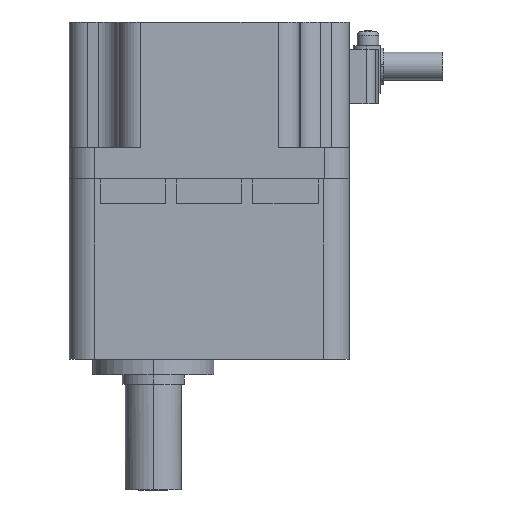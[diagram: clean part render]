
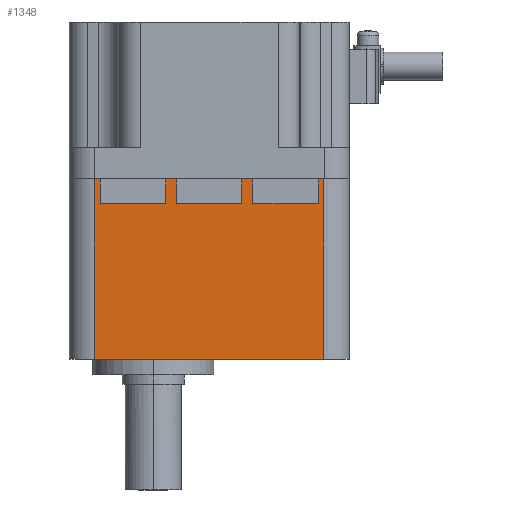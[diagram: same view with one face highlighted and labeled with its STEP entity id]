
A CAD part, left-side view. The second image highlights one B-rep face of the part: STEP entity #1348.
In plain terms, the highlighted planar face has unit normal (-1, 0, 0).
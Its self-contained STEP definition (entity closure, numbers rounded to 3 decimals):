
#5 = DIRECTION ( 'NONE',  ( 0., -1., 0. ) ) ;
#68 = VECTOR ( 'NONE', #2330, 1000. ) ;
#82 = EDGE_CURVE ( 'NONE', #4188, #3000, #2545, .T. ) ;
#115 = LINE ( 'NONE', #6035, #4887 ) ;
#153 = EDGE_CURVE ( 'NONE', #3217, #1065, #3037, .T. ) ;
#329 = ORIENTED_EDGE ( 'NONE', *, *, #153, .T. ) ;
#523 = CARTESIAN_POINT ( 'NONE',  ( -45., 14., -8. ) ) ;
#542 = VECTOR ( 'NONE', #5, 1000. ) ;
#601 = CARTESIAN_POINT ( 'NONE',  ( -45., -45., -58. ) ) ;
#609 = EDGE_LOOP ( 'NONE', ( #2481, #2381, #1871, #1061, #6016, #2771, #329, #2932, #5896, #620, #6045, #3662, #1218, #6013, #3404, #2766 ) ) ;
#620 = ORIENTED_EDGE ( 'NONE', *, *, #2662, .T. ) ;
#636 = EDGE_CURVE ( 'NONE', #906, #2443, #2459, .T. ) ;
#706 = DIRECTION ( 'NONE',  ( 0., 0., -1. ) ) ;
#719 = VECTOR ( 'NONE', #3323, 1000. ) ;
#794 = VECTOR ( 'NONE', #2563, 1000. ) ;
#807 = EDGE_CURVE ( 'NONE', #5584, #1065, #4752, .T. ) ;
#906 = VERTEX_POINT ( 'NONE', #3413 ) ;
#921 = CARTESIAN_POINT ( 'NONE',  ( -45., 35., 0. ) ) ;
#1061 = ORIENTED_EDGE ( 'NONE', *, *, #2193, .F. ) ;
#1065 = VERTEX_POINT ( 'NONE', #921 ) ;
#1103 = VERTEX_POINT ( 'NONE', #523 ) ;
#1111 = CARTESIAN_POINT ( 'NONE',  ( -45., -10.5, -8. ) ) ;
#1218 = ORIENTED_EDGE ( 'NONE', *, *, #636, .T. ) ;
#1225 = LINE ( 'NONE', #601, #542 ) ;
#1336 = CARTESIAN_POINT ( 'NONE',  ( -45., 36.8, -58. ) ) ;
#1348 = ADVANCED_FACE ( 'NONE', ( #5929 ), #1359, .T. ) ;
#1359 = PLANE ( 'NONE',  #5468 ) ;
#1364 = EDGE_CURVE ( 'NONE', #2207, #5037, #1630, .T. ) ;
#1473 = VECTOR ( 'NONE', #3175, 1000. ) ;
#1511 = VERTEX_POINT ( 'NONE', #4013 ) ;
#1528 = CARTESIAN_POINT ( 'NONE',  ( -45., 45., -58. ) ) ;
#1544 = DIRECTION ( 'NONE',  ( -1., 0., 0. ) ) ;
#1552 = DIRECTION ( 'NONE',  ( 0., -1., 0. ) ) ;
#1593 = CARTESIAN_POINT ( 'NONE',  ( -45., 35., -8. ) ) ;
#1630 = LINE ( 'NONE', #1656, #4131 ) ;
#1656 = CARTESIAN_POINT ( 'NONE',  ( -45., -45., 0. ) ) ;
#1670 = CARTESIAN_POINT ( 'NONE',  ( -45., 10.5, -8. ) ) ;
#1689 = DIRECTION ( 'NONE',  ( 0., -1., 0. ) ) ;
#1783 = CARTESIAN_POINT ( 'NONE',  ( -45., -36.8, -58. ) ) ;
#1871 = ORIENTED_EDGE ( 'NONE', *, *, #5541, .T. ) ;
#2077 = DIRECTION ( 'NONE',  ( 0., 0., -1. ) ) ;
#2088 = CARTESIAN_POINT ( 'NONE',  ( -45., -10.5, 0. ) ) ;
#2101 = EDGE_CURVE ( 'NONE', #5776, #5168, #3477, .T. ) ;
#2144 = VERTEX_POINT ( 'NONE', #3007 ) ;
#2193 = EDGE_CURVE ( 'NONE', #5191, #1511, #3995, .T. ) ;
#2207 = VERTEX_POINT ( 'NONE', #2088 ) ;
#2239 = VECTOR ( 'NONE', #2852, 1000. ) ;
#2330 = DIRECTION ( 'NONE',  ( 0., 1., 0. ) ) ;
#2335 = EDGE_CURVE ( 'NONE', #1103, #3217, #5039, .T. ) ;
#2381 = ORIENTED_EDGE ( 'NONE', *, *, #82, .T. ) ;
#2440 = VECTOR ( 'NONE', #2077, 1000. ) ;
#2443 = VERTEX_POINT ( 'NONE', #3693 ) ;
#2459 = LINE ( 'NONE', #4507, #1473 ) ;
#2481 = ORIENTED_EDGE ( 'NONE', *, *, #3803, .T. ) ;
#2545 = LINE ( 'NONE', #2558, #794 ) ;
#2558 = CARTESIAN_POINT ( 'NONE',  ( -45., 45., -8. ) ) ;
#2563 = DIRECTION ( 'NONE',  ( 0., 1., 0. ) ) ;
#2662 = EDGE_CURVE ( 'NONE', #5620, #5168, #1225, .T. ) ;
#2674 = VECTOR ( 'NONE', #4715, 1000. ) ;
#2718 = CARTESIAN_POINT ( 'NONE',  ( -45., -10.5, -58. ) ) ;
#2756 = CARTESIAN_POINT ( 'NONE',  ( -45., 14., 0. ) ) ;
#2766 = ORIENTED_EDGE ( 'NONE', *, *, #1364, .F. ) ;
#2771 = ORIENTED_EDGE ( 'NONE', *, *, #2335, .T. ) ;
#2852 = DIRECTION ( 'NONE',  ( 0., 0., -1. ) ) ;
#2859 = CARTESIAN_POINT ( 'NONE',  ( -45., -36.8, -58. ) ) ;
#2932 = ORIENTED_EDGE ( 'NONE', *, *, #807, .F. ) ;
#2961 = CARTESIAN_POINT ( 'NONE',  ( -45., -14., -8. ) ) ;
#3000 = VERTEX_POINT ( 'NONE', #1670 ) ;
#3007 = CARTESIAN_POINT ( 'NONE',  ( -45., -14., -8. ) ) ;
#3037 = LINE ( 'NONE', #3104, #5380 ) ;
#3104 = CARTESIAN_POINT ( 'NONE',  ( -45., 35., -58. ) ) ;
#3111 = DIRECTION ( 'NONE',  ( 0., 0., 1. ) ) ;
#3135 = VECTOR ( 'NONE', #3814, 1000. ) ;
#3175 = DIRECTION ( 'NONE',  ( 0., 0., -1. ) ) ;
#3217 = VERTEX_POINT ( 'NONE', #1593 ) ;
#3323 = DIRECTION ( 'NONE',  ( 0., -1., 0. ) ) ;
#3355 = LINE ( 'NONE', #2718, #2440 ) ;
#3376 = EDGE_CURVE ( 'NONE', #906, #5776, #5964, .T. ) ;
#3404 = ORIENTED_EDGE ( 'NONE', *, *, #5235, .T. ) ;
#3413 = CARTESIAN_POINT ( 'NONE',  ( -45., -35., 0. ) ) ;
#3477 = LINE ( 'NONE', #2859, #2239 ) ;
#3526 = CARTESIAN_POINT ( 'NONE',  ( -45., 36.8, -58. ) ) ;
#3587 = LINE ( 'NONE', #2961, #68 ) ;
#3621 = VECTOR ( 'NONE', #706, 1000. ) ;
#3660 = CARTESIAN_POINT ( 'NONE',  ( -45., -14., 0. ) ) ;
#3662 = ORIENTED_EDGE ( 'NONE', *, *, #3376, .F. ) ;
#3693 = CARTESIAN_POINT ( 'NONE',  ( -45., -35., -8. ) ) ;
#3803 = EDGE_CURVE ( 'NONE', #2207, #4188, #3355, .T. ) ;
#3814 = DIRECTION ( 'NONE',  ( 0., 1., 0. ) ) ;
#3857 = CARTESIAN_POINT ( 'NONE',  ( -45., -45., 0. ) ) ;
#3888 = LINE ( 'NONE', #1336, #3621 ) ;
#3995 = LINE ( 'NONE', #3857, #719 ) ;
#4013 = CARTESIAN_POINT ( 'NONE',  ( -45., 10.5, 0. ) ) ;
#4131 = VECTOR ( 'NONE', #1689, 1000. ) ;
#4188 = VERTEX_POINT ( 'NONE', #1111 ) ;
#4431 = CARTESIAN_POINT ( 'NONE',  ( -45., 45., -8. ) ) ;
#4458 = EDGE_CURVE ( 'NONE', #5191, #1103, #5912, .T. ) ;
#4507 = CARTESIAN_POINT ( 'NONE',  ( -45., -35., -58. ) ) ;
#4711 = DIRECTION ( 'NONE',  ( 0., -1., 0. ) ) ;
#4715 = DIRECTION ( 'NONE',  ( 0., 0., -1. ) ) ;
#4745 = CARTESIAN_POINT ( 'NONE',  ( -45., -45., 0. ) ) ;
#4749 = VECTOR ( 'NONE', #4711, 1000. ) ;
#4752 = LINE ( 'NONE', #4745, #4749 ) ;
#4759 = DIRECTION ( 'NONE',  ( 0., 0., 1. ) ) ;
#4770 = DIRECTION ( 'NONE',  ( 0., -1., 0. ) ) ;
#4794 = EDGE_CURVE ( 'NONE', #2443, #2144, #3587, .T. ) ;
#4887 = VECTOR ( 'NONE', #5423, 1000. ) ;
#5037 = VERTEX_POINT ( 'NONE', #3660 ) ;
#5039 = LINE ( 'NONE', #4431, #3135 ) ;
#5168 = VERTEX_POINT ( 'NONE', #1783 ) ;
#5191 = VERTEX_POINT ( 'NONE', #2756 ) ;
#5211 = EDGE_CURVE ( 'NONE', #5584, #5620, #3888, .T. ) ;
#5235 = EDGE_CURVE ( 'NONE', #2144, #5037, #115, .T. ) ;
#5307 = CARTESIAN_POINT ( 'NONE',  ( -45., 14., -58. ) ) ;
#5342 = CARTESIAN_POINT ( 'NONE',  ( -45., 10.5, -58. ) ) ;
#5356 = CARTESIAN_POINT ( 'NONE',  ( -45., -45., 0. ) ) ;
#5380 = VECTOR ( 'NONE', #3111, 1000. ) ;
#5423 = DIRECTION ( 'NONE',  ( 0., 0., 1. ) ) ;
#5468 = AXIS2_PLACEMENT_3D ( 'NONE', #1528, #1544, #1552 ) ;
#5527 = VECTOR ( 'NONE', #4759, 1000. ) ;
#5541 = EDGE_CURVE ( 'NONE', #3000, #1511, #5954, .T. ) ;
#5584 = VERTEX_POINT ( 'NONE', #5684 ) ;
#5620 = VERTEX_POINT ( 'NONE', #3526 ) ;
#5684 = CARTESIAN_POINT ( 'NONE',  ( -45., 36.8, 0. ) ) ;
#5776 = VERTEX_POINT ( 'NONE', #6061 ) ;
#5896 = ORIENTED_EDGE ( 'NONE', *, *, #5211, .T. ) ;
#5903 = VECTOR ( 'NONE', #4770, 1000. ) ;
#5912 = LINE ( 'NONE', #5307, #2674 ) ;
#5929 = FACE_OUTER_BOUND ( 'NONE', #609, .T. ) ;
#5954 = LINE ( 'NONE', #5342, #5527 ) ;
#5964 = LINE ( 'NONE', #5356, #5903 ) ;
#6013 = ORIENTED_EDGE ( 'NONE', *, *, #4794, .T. ) ;
#6016 = ORIENTED_EDGE ( 'NONE', *, *, #4458, .T. ) ;
#6035 = CARTESIAN_POINT ( 'NONE',  ( -45., -14., -58. ) ) ;
#6045 = ORIENTED_EDGE ( 'NONE', *, *, #2101, .F. ) ;
#6061 = CARTESIAN_POINT ( 'NONE',  ( -45., -36.8, 0. ) ) ;
